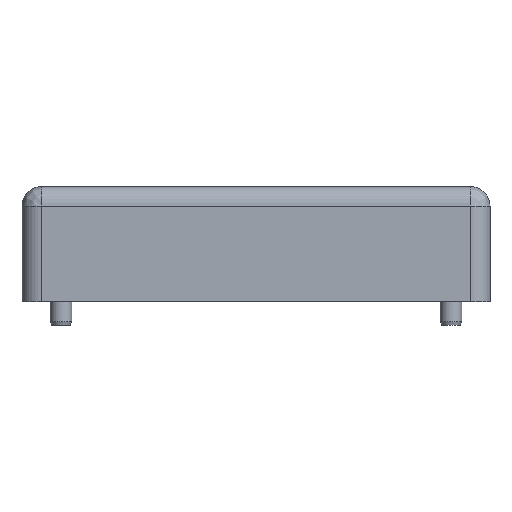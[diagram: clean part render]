
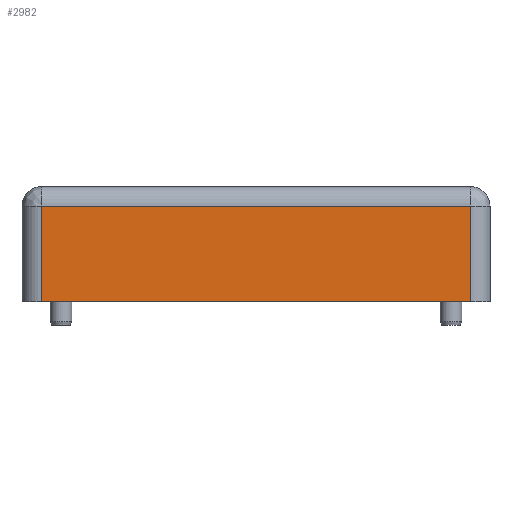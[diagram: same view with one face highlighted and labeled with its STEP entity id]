
A CAD part, front view. The second image highlights one B-rep face of the part: STEP entity #2982.
In plain terms, the highlighted planar face has unit normal (0, -1, 0).
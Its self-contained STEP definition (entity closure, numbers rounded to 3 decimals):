
#390 = DIRECTION ( 'NONE',  ( 0., -1., 0. ) ) ;
#574 = DIRECTION ( 'NONE',  ( 0., 0., -1. ) ) ;
#582 = VECTOR ( 'NONE', #6310, 1000. ) ;
#1300 = CARTESIAN_POINT ( 'NONE',  ( 34.925, -38.1, 34.671 ) ) ;
#1447 = EDGE_CURVE ( 'NONE', #1992, #4057, #6420, .T. ) ;
#1536 = FACE_OUTER_BOUND ( 'NONE', #3365, .T. ) ;
#1755 = AXIS2_PLACEMENT_3D ( 'NONE', #6267, #390, #2749 ) ;
#1768 = CARTESIAN_POINT ( 'NONE',  ( -34.925, -38.1, 26.86 ) ) ;
#1992 = VERTEX_POINT ( 'NONE', #5652 ) ;
#2332 = ORIENTED_EDGE ( 'NONE', *, *, #4363, .T. ) ;
#2337 = CARTESIAN_POINT ( 'NONE',  ( 34.925, -38.1, 26.86 ) ) ;
#2557 = CARTESIAN_POINT ( 'NONE',  ( -34.925, -38.1, 19.05 ) ) ;
#2749 = DIRECTION ( 'NONE',  ( 1., 0., 0. ) ) ;
#2982 = ADVANCED_FACE ( 'NONE', ( #1536 ), #3887, .T. ) ;
#3234 = VERTEX_POINT ( 'NONE', #2557 ) ;
#3365 = EDGE_LOOP ( 'NONE', ( #2332, #4867, #5399, #6953 ) ) ;
#3598 = LINE ( 'NONE', #1768, #6839 ) ;
#3887 = PLANE ( 'NONE',  #1755 ) ;
#4057 = VERTEX_POINT ( 'NONE', #1300 ) ;
#4314 = VECTOR ( 'NONE', #7646, 1000. ) ;
#4363 = EDGE_CURVE ( 'NONE', #6661, #3234, #3598, .T. ) ;
#4634 = DIRECTION ( 'NONE',  ( -1., 0., 0. ) ) ;
#4713 = LINE ( 'NONE', #7186, #5389 ) ;
#4867 = ORIENTED_EDGE ( 'NONE', *, *, #7524, .T. ) ;
#5290 = CARTESIAN_POINT ( 'NONE',  ( -34.925, -38.1, 34.671 ) ) ;
#5389 = VECTOR ( 'NONE', #4634, 1000. ) ;
#5399 = ORIENTED_EDGE ( 'NONE', *, *, #1447, .T. ) ;
#5652 = CARTESIAN_POINT ( 'NONE',  ( 34.925, -38.1, 19.05 ) ) ;
#5743 = LINE ( 'NONE', #7570, #582 ) ;
#6267 = CARTESIAN_POINT ( 'NONE',  ( -34.925, -38.1, 19.05 ) ) ;
#6310 = DIRECTION ( 'NONE',  ( 1., 0., 0. ) ) ;
#6420 = LINE ( 'NONE', #2337, #4314 ) ;
#6450 = EDGE_CURVE ( 'NONE', #4057, #6661, #4713, .T. ) ;
#6661 = VERTEX_POINT ( 'NONE', #5290 ) ;
#6839 = VECTOR ( 'NONE', #574, 1000. ) ;
#6953 = ORIENTED_EDGE ( 'NONE', *, *, #6450, .T. ) ;
#7186 = CARTESIAN_POINT ( 'NONE',  ( 0., -38.1, 34.671 ) ) ;
#7524 = EDGE_CURVE ( 'NONE', #3234, #1992, #5743, .T. ) ;
#7570 = CARTESIAN_POINT ( 'NONE',  ( 0., -38.1, 19.05 ) ) ;
#7646 = DIRECTION ( 'NONE',  ( 0., 0., 1. ) ) ;
